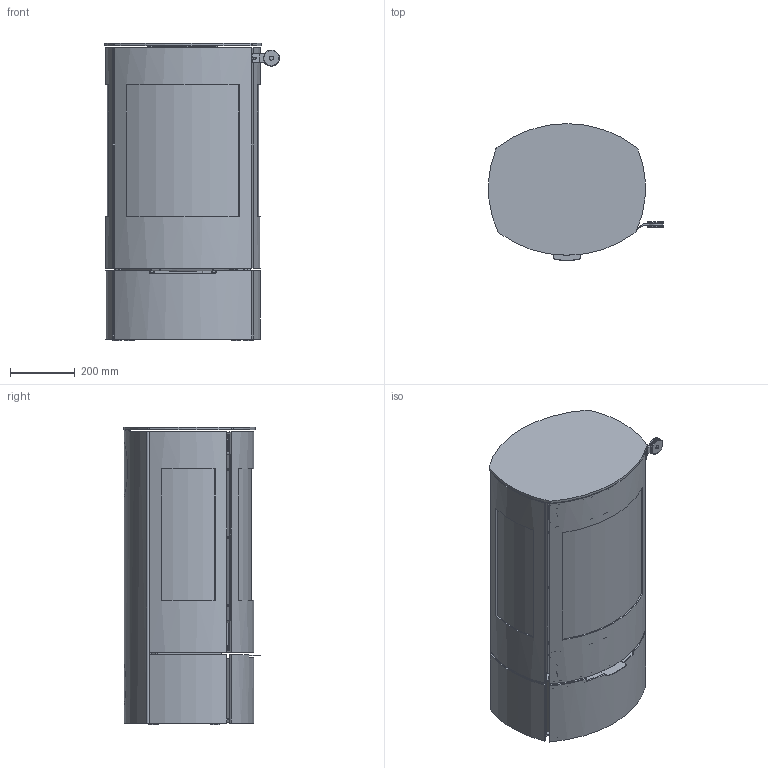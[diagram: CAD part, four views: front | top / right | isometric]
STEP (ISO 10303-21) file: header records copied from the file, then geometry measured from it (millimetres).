
FILE_DESCRIPTION(/* description */ (''),/* implementation_level */ '2;1');
FILE_NAME(/* name */ '14-0131 Caro 90 Classic 3G BO.stp',/* time_stamp */ '2025-02-15T09:36:26+01:00',/* author */ ('pch'),/* organization */ (''),/* preprocessor_version */ 'ST-DEVELOPER v20',/* originating_system */ 'Autodesk Inventor 2025',/* authorisation */ '');
FILE_SCHEMA (('AUTOMOTIVE_DESIGN { 1 0 10303 214 3 1 1 }'));
Products named in the file (1): 14-0131 Caro 90 Classic 3G BO
Bounding box: 540.96 x 421.74 x 920 mm (x, y, z)
Volume: 12293035.1 mm3; surface area: 6543059.5 mm2
Topology: 16 solids, 16 shells, 3190 faces, 9372 edges, 5973 vertices
Faces by surface type: plane 2045, cylinder 1065, bspline 55, torus 24, cone 1
Full cylindrical faces by diameter (mm): 2.5 x2, 4.2 x71, 5 x13, 5.2 x3, 5.5 x5, 6.05 x2, 6.1 x1, 7 x5, 8 x6, 8.3 x1, 10 x6, 12.5 x1, 15 x1, 18 x1, 20 x2, 50 x2, 100 x1, 160 x1
Entity records: 112421 total; most frequent: CARTESIAN_POINT 21708, ORIENTED_EDGE 18754, DIRECTION 17782, EDGE_CURVE 9377, LINE 6784, VECTOR 6784, VERTEX_POINT 5980, AXIS2_PLACEMENT_3D 5499
